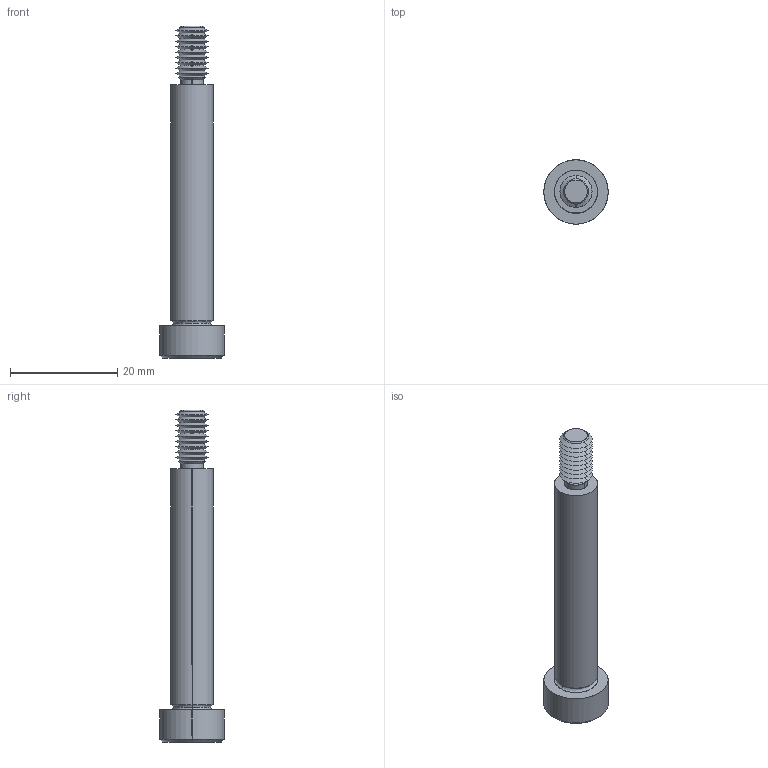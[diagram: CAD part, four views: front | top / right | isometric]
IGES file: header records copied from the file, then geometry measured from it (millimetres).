
Start section: SolidWorks IGES file using analytic representation for surfaces
Global section: file name: C:\Users\IanO\Documents\Temp Folder\GENERAL\SCREW REVISION\P0130_v2\P0130.T5_v2_20220106_IGES\P0130.080-045-T5.igs; native system: SolidWorks 2019; preprocessor: SolidWorks 2019; author: IanO; date: 220106.223615; units: millimetre
Bounding box: 12 x 12 x 62 mm (x, y, z)
Surface area: 1967.2 mm2 (no closed solid volume)
Topology: 0 solids, 0 shells, 80 faces, 580 edges, 578 vertices
Faces by surface type: revolution 60, bspline 20
